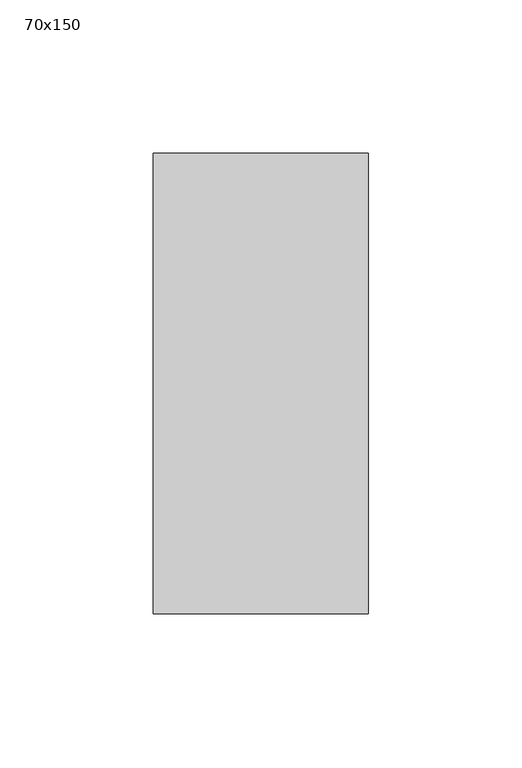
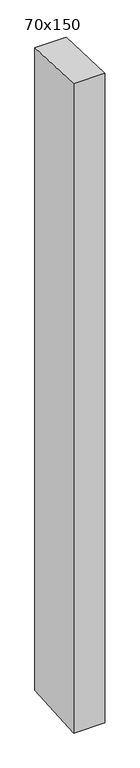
"""IFC4 building model written with IfcOpenShell, lengths in millimetres: member geometry, 長方形のマリオン : 70x150."""

from ifc_helpers import new_model, si_unit, frame, origin, place, context, project, spatial, polyline, outline, extrude, source, transform, mapped, element, save


def member_70x150_ebebe8d5(model_context):
    return source(origin(), model_context, "Body", "SweptSolid", [
        extrude(outline(polyline([(-75.0, 2.8650935), (75.0, -2.8650935), (75.0, -1521.0219989), (-75.0, -1530.8854759), (-75.0, 2.8650935)])), frame((-70.0, 0.0, 0.0), z_axis=(1.0, 0.0, 0.0), x_axis=(0.0, 1.0, 0.0)), (0.0, 0.0, 1.0), 70.0),
    ])


if __name__ == "__main__":
    model = new_model("IFC4")
    model_context = context("Model", 3, world=origin())
    ifc_project = project(units=[si_unit("LENGTHUNIT", "METRE", prefix="MILLI")], contexts=[model_context])
    site = spatial("IfcSite", under=ifc_project)
    building = spatial("IfcBuilding", under=site)
    placement = place(None, origin())
    member_70x150_shape = member_70x150_ebebe8d5(model_context)
    element("IfcMember", 1, ObjectType="長方形のマリオン : 70x150", at=placement, inside=building, context=model_context, shape_type="MappedRepresentation", body=[
        mapped(member_70x150_shape, transform((0.0, 0.0, 0.0), x_axis=(1.0, 0.0, 0.0), y_axis=(0.0, 1.0, 0.0), z_axis=(0.0, 0.0, 1.0))),
    ])
    save(model, "model.ifc")
